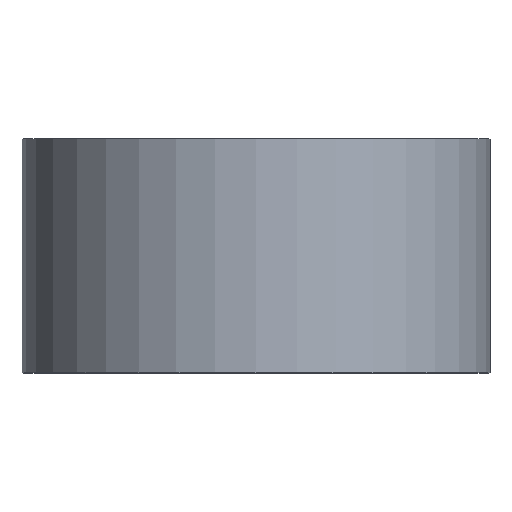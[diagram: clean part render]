
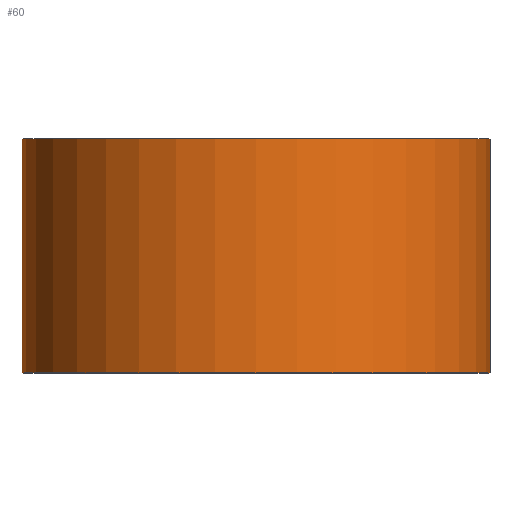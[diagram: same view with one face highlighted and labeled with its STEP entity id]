
A CAD part, top view. The second image highlights one B-rep face of the part: STEP entity #60.
In plain terms, the highlighted cylindrical face has radius 10 mm (diameter 20 mm), a full revolution.
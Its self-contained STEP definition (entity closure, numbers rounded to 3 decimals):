
#17=FACE_BOUND('',#27,.T.);
#21=FACE_OUTER_BOUND('',#26,.T.);
#26=EDGE_LOOP('',(#46));
#27=EDGE_LOOP('',(#47));
#34=CIRCLE('',#75,10.);
#35=CIRCLE('',#76,10.);
#38=VERTEX_POINT('',#104);
#39=VERTEX_POINT('',#106);
#42=EDGE_CURVE('',#38,#38,#34,.T.);
#43=EDGE_CURVE('',#39,#39,#35,.T.);
#46=ORIENTED_EDGE('',*,*,#42,.F.);
#47=ORIENTED_EDGE('',*,*,#43,.F.);
#53=CYLINDRICAL_SURFACE('',#74,10.);
#60=ADVANCED_FACE('',(#21,#17),#53,.T.);
#74=AXIS2_PLACEMENT_3D('',#103,#87,#88);
#75=AXIS2_PLACEMENT_3D('',#105,#89,#90);
#76=AXIS2_PLACEMENT_3D('',#107,#91,#92);
#87=DIRECTION('center_axis',(0.,1.,0.));
#88=DIRECTION('ref_axis',(1.,0.,0.));
#89=DIRECTION('center_axis',(0.,1.,0.));
#90=DIRECTION('ref_axis',(1.,0.,0.));
#91=DIRECTION('center_axis',(0.,-1.,0.));
#92=DIRECTION('ref_axis',(1.,0.,0.));
#103=CARTESIAN_POINT('Origin',(0.,0.,0.));
#104=CARTESIAN_POINT('',(-10.,10.,0.));
#105=CARTESIAN_POINT('Origin',(0.,10.,0.));
#106=CARTESIAN_POINT('',(-10.,0.,0.));
#107=CARTESIAN_POINT('Origin',(0.,0.,0.));
